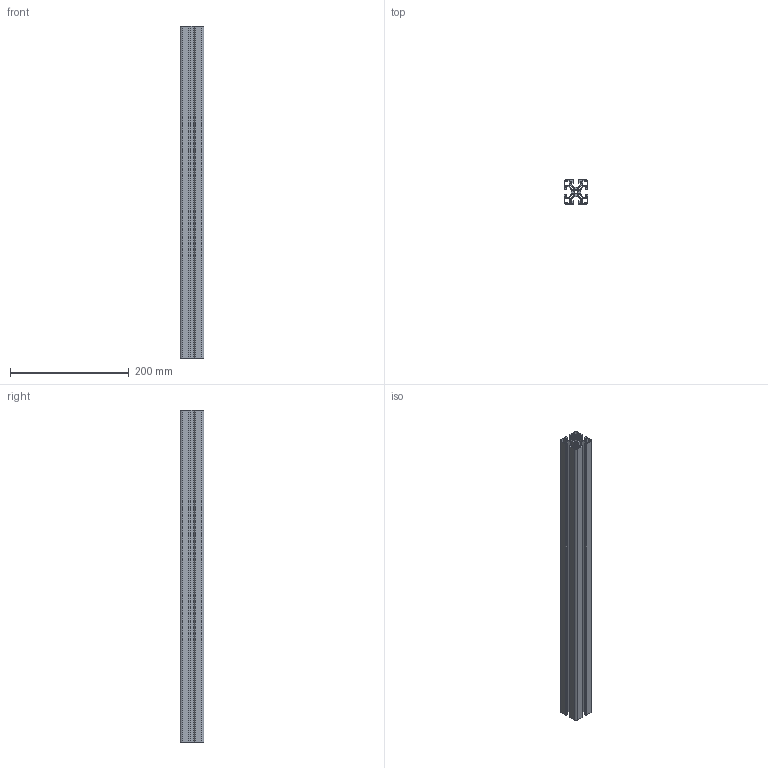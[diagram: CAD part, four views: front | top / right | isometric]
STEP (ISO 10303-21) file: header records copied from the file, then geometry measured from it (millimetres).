
FILE_DESCRIPTION(('no description'),'unknown implementation level');
FILE_NAME('7_0_000_09_7.stp',' ',('item Industrietechnik GmbH'),('CADClick - KiM GmbH - www.kimweb.de'),'unknown preprocess','ACIS','unknown authorization');
FILE_SCHEMA(('automotive_design'));
Length unit declared in the file: millimetre
Products named in the file (1): 1
Bounding box: 40 x 40 x 560 mm (x, y, z)
Volume: 287908.2 mm3; surface area: 327023.9 mm2
Topology: 1 solids, 1 shells, 236 faces, 702 edges, 468 vertices
Faces by surface type: cylinder 142, plane 94
Entity records: 15828 total; most frequent: DIRECTION 1460, STYLED_ITEM 1407, PRESENTATION_STYLE_ASSIGNMENT 1407, CARTESIAN_POINT 1407, COLOUR_RGB 1407, ORIENTED_EDGE 1404, EDGE_CURVE 702, CURVE_STYLE 702
